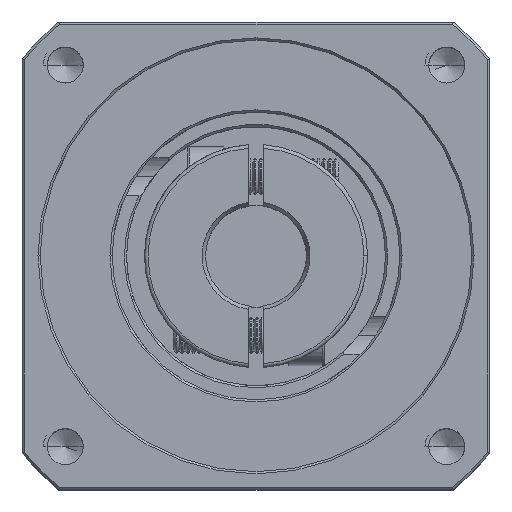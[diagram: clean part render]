
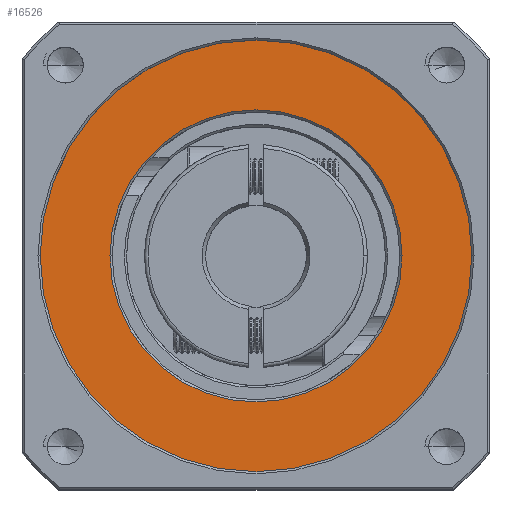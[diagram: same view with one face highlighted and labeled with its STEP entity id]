
A CAD part, top view. The second image highlights one B-rep face of the part: STEP entity #16526.
In plain terms, the highlighted planar face has unit normal (0, 0, 1).
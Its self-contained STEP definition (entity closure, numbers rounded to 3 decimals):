
#3191 = AXIS2_PLACEMENT_3D ( 'NONE', #20203, #71667, #27565 ) ;
#3618 = ORIENTED_EDGE ( 'NONE', *, *, #65081, .T. ) ;
#6856 = DIRECTION ( 'NONE',  ( 1., 0., 0. ) ) ;
#8332 = VERTEX_POINT ( 'NONE', #46336 ) ;
#16526 = ADVANCED_FACE ( 'NONE', ( #87744, #31453 ), #83568, .T. ) ;
#17053 = CARTESIAN_POINT ( 'NONE',  ( -65.47, 28.173, 12.447 ) ) ;
#17705 = CARTESIAN_POINT ( 'NONE',  ( -65.47, 28.173, 12.447 ) ) ;
#20203 = CARTESIAN_POINT ( 'NONE',  ( -65.47, 28.173, 12.447 ) ) ;
#24446 = DIRECTION ( 'NONE',  ( 1., 0., 0. ) ) ;
#25095 = DIRECTION ( 'NONE',  ( 1., 0., 0. ) ) ;
#25140 = CARTESIAN_POINT ( 'NONE',  ( -85.77, 28.173, 12.447 ) ) ;
#27565 = DIRECTION ( 'NONE',  ( 1., 0., 0. ) ) ;
#29195 = EDGE_CURVE ( 'NONE', #91693, #8332, #90132, .T. ) ;
#31453 = FACE_OUTER_BOUND ( 'NONE', #32321, .T. ) ;
#32321 = EDGE_LOOP ( 'NONE', ( #72535, #59953 ) ) ;
#34522 = CIRCLE ( 'NONE', #86542, 20.3 ) ;
#34826 = CIRCLE ( 'NONE', #3191, 20.3 ) ;
#43287 = CARTESIAN_POINT ( 'NONE',  ( -65.47, 28.173, 12.447 ) ) ;
#46336 = CARTESIAN_POINT ( 'NONE',  ( -35.47, 28.173, 12.447 ) ) ;
#47477 = ORIENTED_EDGE ( 'NONE', *, *, #69978, .T. ) ;
#48255 = EDGE_LOOP ( 'NONE', ( #47477, #3618 ) ) ;
#50700 = DIRECTION ( 'NONE',  ( 1., 0., 0. ) ) ;
#51005 = DIRECTION ( 'NONE',  ( 0., 0., 1. ) ) ;
#54929 = CARTESIAN_POINT ( 'NONE',  ( -45.17, 28.173, 12.447 ) ) ;
#59953 = ORIENTED_EDGE ( 'NONE', *, *, #29195, .T. ) ;
#60120 = EDGE_CURVE ( 'NONE', #8332, #91693, #78282, .T. ) ;
#65081 = EDGE_CURVE ( 'NONE', #69473, #87321, #34826, .T. ) ;
#68566 = DIRECTION ( 'NONE',  ( 0., 0., -1. ) ) ;
#69218 = DIRECTION ( 'NONE',  ( 0., 0., 1. ) ) ;
#69473 = VERTEX_POINT ( 'NONE', #25140 ) ;
#69978 = EDGE_CURVE ( 'NONE', #87321, #69473, #34522, .T. ) ;
#71667 = DIRECTION ( 'NONE',  ( 0., 0., -1. ) ) ;
#72535 = ORIENTED_EDGE ( 'NONE', *, *, #60120, .T. ) ;
#73121 = AXIS2_PLACEMENT_3D ( 'NONE', #94859, #51005, #6856 ) ;
#74558 = AXIS2_PLACEMENT_3D ( 'NONE', #43287, #94554, #50700 ) ;
#78282 = CIRCLE ( 'NONE', #73121, 30. ) ;
#79598 = CARTESIAN_POINT ( 'NONE',  ( -95.47, 28.173, 12.447 ) ) ;
#82335 = AXIS2_PLACEMENT_3D ( 'NONE', #17705, #69218, #25095 ) ;
#83568 = PLANE ( 'NONE',  #82335 ) ;
#86542 = AXIS2_PLACEMENT_3D ( 'NONE', #17053, #68566, #24446 ) ;
#87321 = VERTEX_POINT ( 'NONE', #54929 ) ;
#87744 = FACE_BOUND ( 'NONE', #48255, .T. ) ;
#90132 = CIRCLE ( 'NONE', #74558, 30. ) ;
#91693 = VERTEX_POINT ( 'NONE', #79598 ) ;
#94554 = DIRECTION ( 'NONE',  ( 0., 0., 1. ) ) ;
#94859 = CARTESIAN_POINT ( 'NONE',  ( -65.47, 28.173, 12.447 ) ) ;
